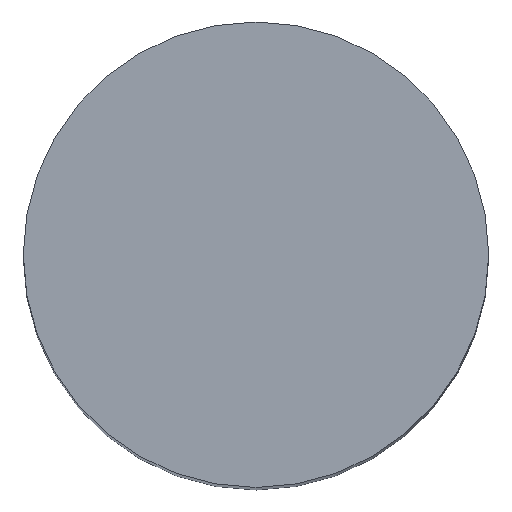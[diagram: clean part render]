
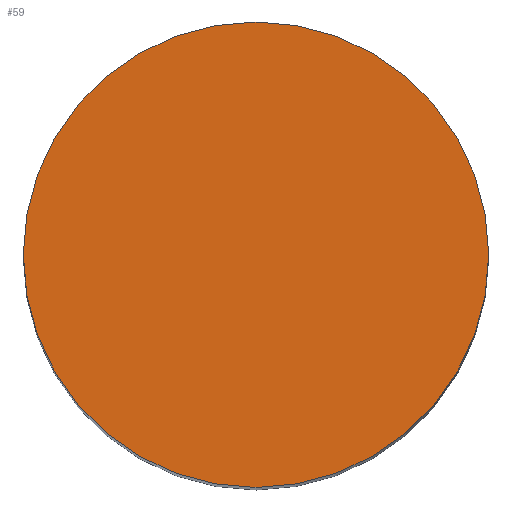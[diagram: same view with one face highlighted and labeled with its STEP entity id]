
A CAD part, top view. The second image highlights one B-rep face of the part: STEP entity #59.
In plain terms, the highlighted planar face has unit normal (0, 0, 1).
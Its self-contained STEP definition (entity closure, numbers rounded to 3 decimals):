
#24 = VERTEX_POINT('',#25);
#25 = CARTESIAN_POINT('',(51.025,37.55,41.));
#31 = EDGE_CURVE('',#24,#24,#32,.T.);
#32 = CIRCLE('',#33,0.525);
#33 = AXIS2_PLACEMENT_3D('',#34,#35,#36);
#34 = CARTESIAN_POINT('',(50.5,37.55,41.));
#35 = DIRECTION('',(0.,0.,1.));
#36 = DIRECTION('',(1.,0.,0.));
#59 = ADVANCED_FACE('',(#60),#63,.T.);
#60 = FACE_BOUND('',#61,.T.);
#61 = EDGE_LOOP('',(#62));
#62 = ORIENTED_EDGE('',*,*,#31,.T.);
#63 = PLANE('',#64);
#64 = AXIS2_PLACEMENT_3D('',#65,#66,#67);
#65 = CARTESIAN_POINT('',(50.5,37.55,41.));
#66 = DIRECTION('',(0.,0.,1.));
#67 = DIRECTION('',(1.,0.,0.));
